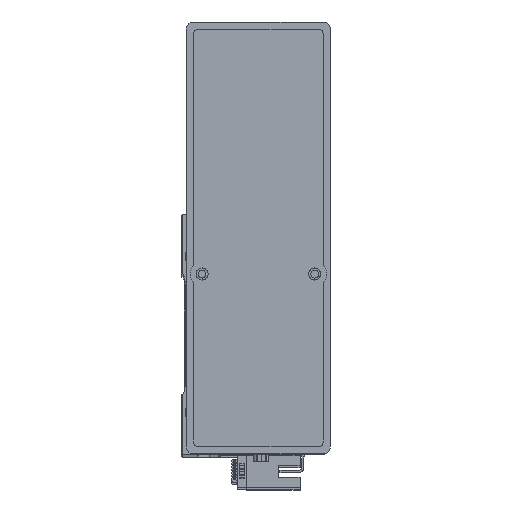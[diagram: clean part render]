
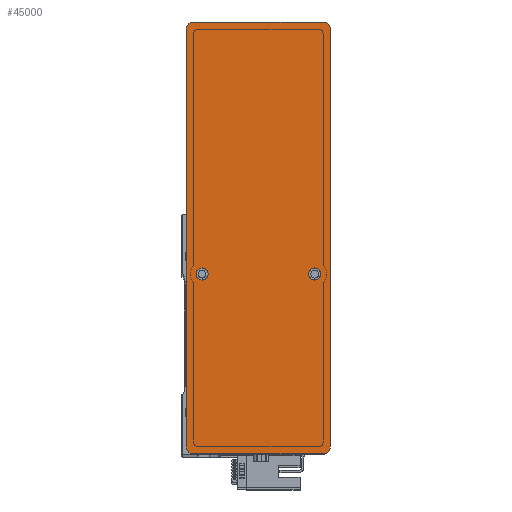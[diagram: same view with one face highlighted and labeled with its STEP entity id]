
A CAD part, top view. The second image highlights one B-rep face of the part: STEP entity #45000.
In plain terms, the highlighted planar face has unit normal (0, 0, 1) as drawn and (0, 0, -1) by its records, which use the part's own axes.
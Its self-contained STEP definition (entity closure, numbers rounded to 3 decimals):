
#56 = FACE_BOUND ( 'NONE', #8489, .T. ) ;
#83 = CARTESIAN_POINT ( 'NONE',  ( -87., -27., 0. ) ) ;
#768 = VERTEX_POINT ( 'NONE', #7337 ) ;
#944 = CARTESIAN_POINT ( 'NONE',  ( -15., -23.5, 0. ) ) ;
#1065 = CARTESIAN_POINT ( 'NONE',  ( 87., -27., 0. ) ) ;
#1281 = CARTESIAN_POINT ( 'NONE',  ( -87., -30., 0. ) ) ;
#1913 = DIRECTION ( 'NONE',  ( 0., 1., 0. ) ) ;
#2214 = VERTEX_POINT ( 'NONE', #1281 ) ;
#3017 = ORIENTED_EDGE ( 'NONE', *, *, #43047, .F. ) ;
#3099 = DIRECTION ( 'NONE',  ( 1., 0., 0. ) ) ;
#3182 = VERTEX_POINT ( 'NONE', #20024 ) ;
#3288 = LINE ( 'NONE', #6208, #39641 ) ;
#3319 = DIRECTION ( 'NONE',  ( -1., 0., 0. ) ) ;
#3405 = AXIS2_PLACEMENT_3D ( 'NONE', #45538, #24414, #3319 ) ;
#3619 = DIRECTION ( 'NONE',  ( 1., 0., 0. ) ) ;
#3725 = EDGE_CURVE ( 'NONE', #24376, #5070, #26370, .T. ) ;
#4155 = EDGE_LOOP ( 'NONE', ( #21804, #16579, #29751, #8150, #17395, #16835, #3017, #26765 ) ) ;
#4496 = DIRECTION ( 'NONE',  ( -1., 0., 0. ) ) ;
#4611 = DIRECTION ( 'NONE',  ( 1., 0., 0. ) ) ;
#5070 = VERTEX_POINT ( 'NONE', #30365 ) ;
#5914 = EDGE_CURVE ( 'NONE', #3182, #34635, #26095, .T. ) ;
#6208 = CARTESIAN_POINT ( 'NONE',  ( -90., -30., 0. ) ) ;
#6300 = VERTEX_POINT ( 'NONE', #21407 ) ;
#6511 = VERTEX_POINT ( 'NONE', #12158 ) ;
#7307 = DIRECTION ( 'NONE',  ( 0., 0., -1. ) ) ;
#7337 = CARTESIAN_POINT ( 'NONE',  ( 90., -27., 0. ) ) ;
#8150 = ORIENTED_EDGE ( 'NONE', *, *, #9069, .T. ) ;
#8489 = EDGE_LOOP ( 'NONE', ( #42791, #28199 ) ) ;
#9069 = EDGE_CURVE ( 'NONE', #2214, #39093, #9918, .T. ) ;
#9456 = FACE_BOUND ( 'NONE', #34543, .T. ) ;
#9763 = VERTEX_POINT ( 'NONE', #40917 ) ;
#9918 = CIRCLE ( 'NONE', #43987, 3. ) ;
#9991 = EDGE_CURVE ( 'NONE', #18836, #6511, #38491, .T. ) ;
#10263 = AXIS2_PLACEMENT_3D ( 'NONE', #28374, #7307, #31899 ) ;
#10664 = CARTESIAN_POINT ( 'NONE',  ( -17.5, 23.5, 0. ) ) ;
#10730 = CIRCLE ( 'NONE', #44370, 2.5 ) ;
#11445 = DIRECTION ( 'NONE',  ( 0., 0., -1. ) ) ;
#11970 = DIRECTION ( 'NONE',  ( 0., 0., -1. ) ) ;
#11994 = VERTEX_POINT ( 'NONE', #10664 ) ;
#12158 = CARTESIAN_POINT ( 'NONE',  ( -87., 30., 0. ) ) ;
#12600 = LINE ( 'NONE', #30227, #30161 ) ;
#13226 = CIRCLE ( 'NONE', #30311, 3. ) ;
#13718 = CARTESIAN_POINT ( 'NONE',  ( -90., 27., 0. ) ) ;
#14310 = AXIS2_PLACEMENT_3D ( 'NONE', #33018, #11970, #36536 ) ;
#14401 = LINE ( 'NONE', #45325, #31913 ) ;
#14649 = CARTESIAN_POINT ( 'NONE',  ( 90., 30., 0. ) ) ;
#15166 = AXIS2_PLACEMENT_3D ( 'NONE', #41215, #19841, #23665 ) ;
#16379 = CARTESIAN_POINT ( 'NONE',  ( -17.5, -23.5, 0. ) ) ;
#16579 = ORIENTED_EDGE ( 'NONE', *, *, #30288, .T. ) ;
#16835 = ORIENTED_EDGE ( 'NONE', *, *, #9991, .T. ) ;
#17037 = CARTESIAN_POINT ( 'NONE',  ( -15., 23.5, 0. ) ) ;
#17395 = ORIENTED_EDGE ( 'NONE', *, *, #25186, .F. ) ;
#17905 = AXIS2_PLACEMENT_3D ( 'NONE', #944, #25568, #4496 ) ;
#18162 = DIRECTION ( 'NONE',  ( -1., 0., 0. ) ) ;
#18836 = VERTEX_POINT ( 'NONE', #13718 ) ;
#18854 = FACE_OUTER_BOUND ( 'NONE', #4155, .T. ) ;
#19841 = DIRECTION ( 'NONE',  ( 0., 0., 1. ) ) ;
#20024 = CARTESIAN_POINT ( 'NONE',  ( -12.5, -23.5, 0. ) ) ;
#20535 = DIRECTION ( 'NONE',  ( -1., 0., 0. ) ) ;
#21080 = CIRCLE ( 'NONE', #3405, 2.5 ) ;
#21407 = CARTESIAN_POINT ( 'NONE',  ( -12.5, 23.5, 0. ) ) ;
#21491 = EDGE_CURVE ( 'NONE', #34635, #3182, #10730, .T. ) ;
#21804 = ORIENTED_EDGE ( 'NONE', *, *, #39473, .F. ) ;
#22499 = LINE ( 'NONE', #14649, #31787 ) ;
#23665 = DIRECTION ( 'NONE',  ( 1., 0., 0. ) ) ;
#24376 = VERTEX_POINT ( 'NONE', #33644 ) ;
#24414 = DIRECTION ( 'NONE',  ( 0., 0., -1. ) ) ;
#24726 = DIRECTION ( 'NONE',  ( 0., 0., -1. ) ) ;
#25186 = EDGE_CURVE ( 'NONE', #18836, #39093, #3288, .T. ) ;
#25568 = DIRECTION ( 'NONE',  ( 0., 0., -1. ) ) ;
#25689 = DIRECTION ( 'NONE',  ( 0., 0., -1. ) ) ;
#26095 = CIRCLE ( 'NONE', #17905, 2.5 ) ;
#26370 = CIRCLE ( 'NONE', #14310, 3. ) ;
#26765 = ORIENTED_EDGE ( 'NONE', *, *, #3725, .T. ) ;
#28199 = ORIENTED_EDGE ( 'NONE', *, *, #5914, .F. ) ;
#28374 = CARTESIAN_POINT ( 'NONE',  ( -87., 27., 0. ) ) ;
#29751 = ORIENTED_EDGE ( 'NONE', *, *, #30015, .F. ) ;
#30015 = EDGE_CURVE ( 'NONE', #2214, #9763, #14401, .T. ) ;
#30161 = VECTOR ( 'NONE', #1913, 1000. ) ;
#30227 = CARTESIAN_POINT ( 'NONE',  ( 90., -30., 0. ) ) ;
#30288 = EDGE_CURVE ( 'NONE', #768, #9763, #13226, .T. ) ;
#30311 = AXIS2_PLACEMENT_3D ( 'NONE', #1065, #25689, #4611 ) ;
#30365 = CARTESIAN_POINT ( 'NONE',  ( 90., 27., 0. ) ) ;
#31787 = VECTOR ( 'NONE', #18162, 1000. ) ;
#31899 = DIRECTION ( 'NONE',  ( 1., 0., 0. ) ) ;
#31913 = VECTOR ( 'NONE', #3099, 1000. ) ;
#32489 = CARTESIAN_POINT ( 'NONE',  ( -15., -23.5, 0. ) ) ;
#33018 = CARTESIAN_POINT ( 'NONE',  ( 87., 27., 0. ) ) ;
#33644 = CARTESIAN_POINT ( 'NONE',  ( 87., 30., 0. ) ) ;
#34543 = EDGE_LOOP ( 'NONE', ( #42240, #34960 ) ) ;
#34635 = VERTEX_POINT ( 'NONE', #16379 ) ;
#34960 = ORIENTED_EDGE ( 'NONE', *, *, #43926, .F. ) ;
#36002 = DIRECTION ( 'NONE',  ( -1., 0., 0. ) ) ;
#36536 = DIRECTION ( 'NONE',  ( 1., 0., 0. ) ) ;
#37622 = PLANE ( 'NONE',  #15166 ) ;
#38491 = CIRCLE ( 'NONE', #10263, 3. ) ;
#39093 = VERTEX_POINT ( 'NONE', #41413 ) ;
#39473 = EDGE_CURVE ( 'NONE', #768, #5070, #12600, .T. ) ;
#39641 = VECTOR ( 'NONE', #45025, 1000. ) ;
#40917 = CARTESIAN_POINT ( 'NONE',  ( 87., -30., 0. ) ) ;
#41215 = CARTESIAN_POINT ( 'NONE',  ( 0., 0., 0. ) ) ;
#41413 = CARTESIAN_POINT ( 'NONE',  ( -90., -27., 0. ) ) ;
#41639 = DIRECTION ( 'NONE',  ( 0., 0., -1. ) ) ;
#41771 = EDGE_CURVE ( 'NONE', #11994, #6300, #21080, .T. ) ;
#42240 = ORIENTED_EDGE ( 'NONE', *, *, #41771, .F. ) ;
#42791 = ORIENTED_EDGE ( 'NONE', *, *, #21491, .F. ) ;
#43047 = EDGE_CURVE ( 'NONE', #24376, #6511, #22499, .T. ) ;
#43362 = AXIS2_PLACEMENT_3D ( 'NONE', #17037, #41639, #20535 ) ;
#43926 = EDGE_CURVE ( 'NONE', #6300, #11994, #44919, .T. ) ;
#43987 = AXIS2_PLACEMENT_3D ( 'NONE', #83, #24726, #3619 ) ;
#44370 = AXIS2_PLACEMENT_3D ( 'NONE', #32489, #11445, #36002 ) ;
#44919 = CIRCLE ( 'NONE', #43362, 2.5 ) ;
#45000 = ADVANCED_FACE ( 'NONE', ( #9456, #56, #18854 ), #37622, .F. ) ;
#45025 = DIRECTION ( 'NONE',  ( 0., -1., 0. ) ) ;
#45325 = CARTESIAN_POINT ( 'NONE',  ( 90., -30., 0. ) ) ;
#45538 = CARTESIAN_POINT ( 'NONE',  ( -15., 23.5, 0. ) ) ;
